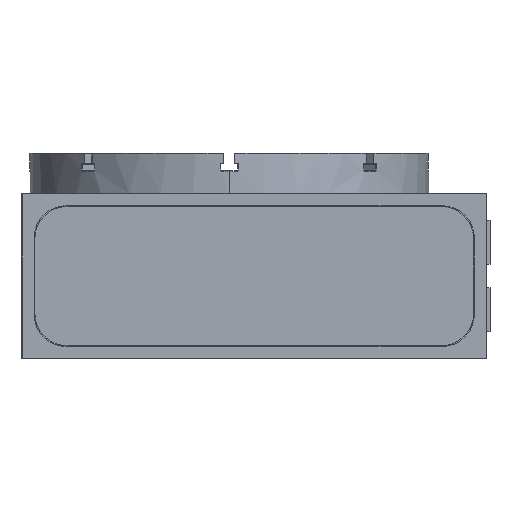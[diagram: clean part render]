
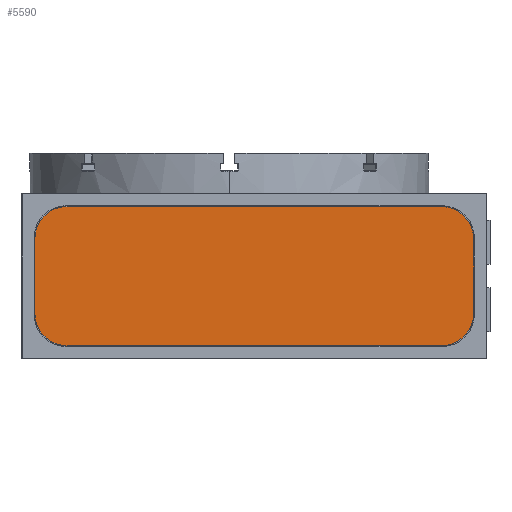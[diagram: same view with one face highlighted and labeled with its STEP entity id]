
A CAD part, left-side view. The second image highlights one B-rep face of the part: STEP entity #5590.
In plain terms, the highlighted planar face has unit normal (-1, 0, 0).
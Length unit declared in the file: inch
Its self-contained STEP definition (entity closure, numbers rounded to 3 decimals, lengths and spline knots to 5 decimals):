
#1000 = CIRCLE ( 'NONE', #64176, 2. ) ;
#3130 = ORIENTED_EDGE ( 'NONE', *, *, #63946, .T. ) ;
#3773 = VECTOR ( 'NONE', #21526, 39.37008 ) ;
#5590 = ADVANCED_FACE ( 'NONE', ( #63092 ), #28072, .F. ) ;
#6012 = EDGE_CURVE ( 'NONE', #71931, #64551, #25024, .T. ) ;
#9415 = CARTESIAN_POINT ( 'NONE',  ( -12.7698, -13.2, 4.325 ) ) ;
#11980 = CARTESIAN_POINT ( 'NONE',  ( -12.7698, 12.075, -2.325 ) ) ;
#13482 = DIRECTION ( 'NONE',  ( 0., -1., 0. ) ) ;
#18706 = CARTESIAN_POINT ( 'NONE',  ( -12.7698, -13.2, -4.325 ) ) ;
#18867 = CARTESIAN_POINT ( 'NONE',  ( -12.7698, -15.2, -2.325 ) ) ;
#20722 = DIRECTION ( 'NONE',  ( 1., 0., 0. ) ) ;
#21526 = DIRECTION ( 'NONE',  ( 0., 0., -1. ) ) ;
#22194 = ORIENTED_EDGE ( 'NONE', *, *, #87235, .T. ) ;
#22267 = CARTESIAN_POINT ( 'NONE',  ( -12.7698, 12.075, 2.325 ) ) ;
#22459 = CIRCLE ( 'NONE', #85554, 2. ) ;
#22829 = DIRECTION ( 'NONE',  ( 0., 0., 1. ) ) ;
#23568 = DIRECTION ( 'NONE',  ( -1., 0., 0. ) ) ;
#25024 = LINE ( 'NONE', #109802, #44619 ) ;
#25759 = CARTESIAN_POINT ( 'NONE',  ( -12.7698, -13.2, 4.325 ) ) ;
#27093 = ORIENTED_EDGE ( 'NONE', *, *, #56896, .T. ) ;
#27928 = DIRECTION ( 'NONE',  ( 0., 0., 1. ) ) ;
#28072 = PLANE ( 'NONE',  #46335 ) ;
#29691 = AXIS2_PLACEMENT_3D ( 'NONE', #84866, #67416, #49888 ) ;
#30900 = CARTESIAN_POINT ( 'NONE',  ( -12.7698, -13.2, -2.325 ) ) ;
#31572 = VERTEX_POINT ( 'NONE', #22267 ) ;
#34222 = VERTEX_POINT ( 'NONE', #39700 ) ;
#36978 = DIRECTION ( 'NONE',  ( -1., 0., 0. ) ) ;
#39700 = CARTESIAN_POINT ( 'NONE',  ( -12.7698, 12.075, -2.325 ) ) ;
#44274 = CARTESIAN_POINT ( 'NONE',  ( -12.7698, 10.075, 2.325 ) ) ;
#44619 = VECTOR ( 'NONE', #22829, 39.37008 ) ;
#46335 = AXIS2_PLACEMENT_3D ( 'NONE', #30900, #20722, #65355 ) ;
#46386 = AXIS2_PLACEMENT_3D ( 'NONE', #70278, #36978, #27928 ) ;
#47148 = CARTESIAN_POINT ( 'NONE',  ( -12.7698, 10.075, -4.325 ) ) ;
#48013 = EDGE_CURVE ( 'NONE', #109765, #31572, #1000, .T. ) ;
#48214 = CIRCLE ( 'NONE', #46386, 2. ) ;
#49387 = VERTEX_POINT ( 'NONE', #18706 ) ;
#49888 = DIRECTION ( 'NONE',  ( 0., 0., -1. ) ) ;
#50585 = ORIENTED_EDGE ( 'NONE', *, *, #67118, .T. ) ;
#52963 = EDGE_CURVE ( 'NONE', #56968, #109765, #59701, .T. ) ;
#54384 = VECTOR ( 'NONE', #110031, 39.37008 ) ;
#56896 = EDGE_CURVE ( 'NONE', #49387, #71931, #22459, .T. ) ;
#56968 = VERTEX_POINT ( 'NONE', #25759 ) ;
#58000 = DIRECTION ( 'NONE',  ( 0., 0., -1. ) ) ;
#59701 = LINE ( 'NONE', #9415, #54384 ) ;
#63092 = FACE_OUTER_BOUND ( 'NONE', #100799, .T. ) ;
#63946 = EDGE_CURVE ( 'NONE', #64551, #56968, #48214, .T. ) ;
#64176 = AXIS2_PLACEMENT_3D ( 'NONE', #44274, #78656, #104702 ) ;
#64516 = CARTESIAN_POINT ( 'NONE',  ( -12.7698, 10.075, 4.325 ) ) ;
#64551 = VERTEX_POINT ( 'NONE', #69880 ) ;
#65355 = DIRECTION ( 'NONE',  ( 0., 0., -1. ) ) ;
#66506 = CARTESIAN_POINT ( 'NONE',  ( -12.7698, -13.2, -2.325 ) ) ;
#67118 = EDGE_CURVE ( 'NONE', #78710, #49387, #82900, .T. ) ;
#67416 = DIRECTION ( 'NONE',  ( -1., 0., 0. ) ) ;
#69880 = CARTESIAN_POINT ( 'NONE',  ( -12.7698, -15.2, 2.325 ) ) ;
#70278 = CARTESIAN_POINT ( 'NONE',  ( -12.7698, -13.2, 2.325 ) ) ;
#71931 = VERTEX_POINT ( 'NONE', #18867 ) ;
#74330 = ORIENTED_EDGE ( 'NONE', *, *, #52963, .T. ) ;
#75157 = ORIENTED_EDGE ( 'NONE', *, *, #79524, .T. ) ;
#76306 = ORIENTED_EDGE ( 'NONE', *, *, #48013, .T. ) ;
#78656 = DIRECTION ( 'NONE',  ( -1., 0., 0. ) ) ;
#78710 = VERTEX_POINT ( 'NONE', #47148 ) ;
#79524 = EDGE_CURVE ( 'NONE', #34222, #78710, #87383, .T. ) ;
#81608 = ORIENTED_EDGE ( 'NONE', *, *, #6012, .T. ) ;
#82515 = LINE ( 'NONE', #11980, #3773 ) ;
#82900 = LINE ( 'NONE', #109487, #100821 ) ;
#84866 = CARTESIAN_POINT ( 'NONE',  ( -12.7698, 10.075, -2.325 ) ) ;
#85554 = AXIS2_PLACEMENT_3D ( 'NONE', #66506, #23568, #58000 ) ;
#87235 = EDGE_CURVE ( 'NONE', #31572, #34222, #82515, .T. ) ;
#87383 = CIRCLE ( 'NONE', #29691, 2. ) ;
#100799 = EDGE_LOOP ( 'NONE', ( #27093, #81608, #3130, #74330, #76306, #22194, #75157, #50585 ) ) ;
#100821 = VECTOR ( 'NONE', #13482, 39.37008 ) ;
#104702 = DIRECTION ( 'NONE',  ( 0., 0., -1. ) ) ;
#109487 = CARTESIAN_POINT ( 'NONE',  ( -12.7698, -13.2, -4.325 ) ) ;
#109765 = VERTEX_POINT ( 'NONE', #64516 ) ;
#109802 = CARTESIAN_POINT ( 'NONE',  ( -12.7698, -15.2, -2.325 ) ) ;
#110031 = DIRECTION ( 'NONE',  ( 0., 1., 0. ) ) ;
